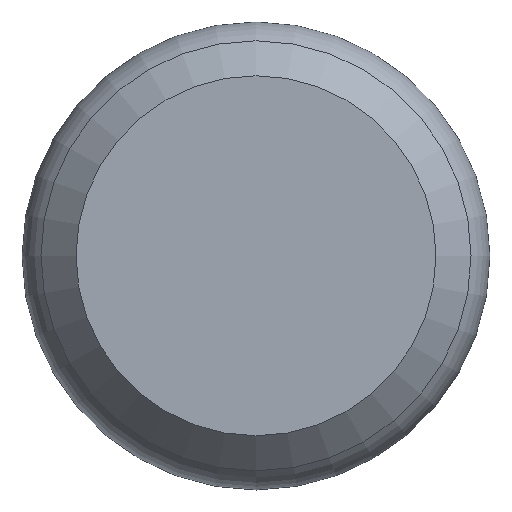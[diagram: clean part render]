
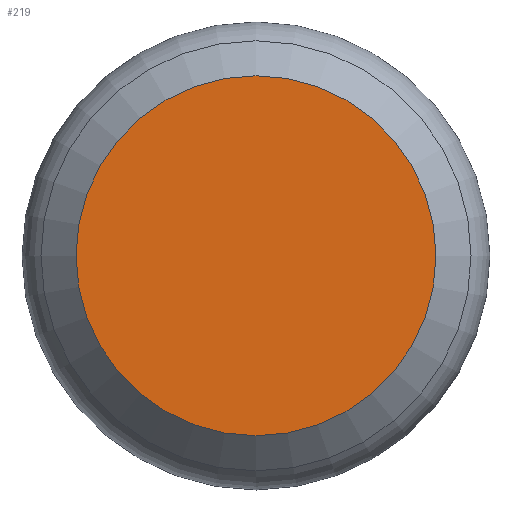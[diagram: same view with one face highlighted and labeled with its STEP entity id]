
A CAD part, top view. The second image highlights one B-rep face of the part: STEP entity #219.
In plain terms, the highlighted planar face has unit normal (0, 0, 1).
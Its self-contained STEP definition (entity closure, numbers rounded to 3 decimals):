
#219 = ADVANCED_FACE('',(#220),#231,.F.);
#220 = FACE_BOUND('',#221,.T.);
#221 = EDGE_LOOP('',(#222));
#222 = ORIENTED_EDGE('',*,*,#223,.F.);
#223 = EDGE_CURVE('',#224,#224,#226,.T.);
#224 = VERTEX_POINT('',#225);
#225 = CARTESIAN_POINT('',(0.,11.157,260.));
#226 = CIRCLE('',#227,11.157);
#227 = AXIS2_PLACEMENT_3D('',#228,#229,#230);
#228 = CARTESIAN_POINT('',(0.,0.,260.));
#229 = DIRECTION('',(0.,0.,-1.));
#230 = DIRECTION('',(0.,1.,0.));
#231 = PLANE('',#232);
#232 = AXIS2_PLACEMENT_3D('',#233,#234,#235);
#233 = CARTESIAN_POINT('',(0.,0.,260.));
#234 = DIRECTION('',(0.,0.,-1.));
#235 = DIRECTION('',(-0.,1.,0.));
